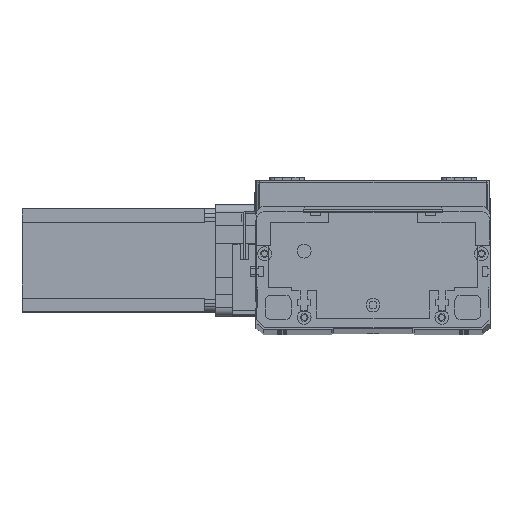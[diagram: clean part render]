
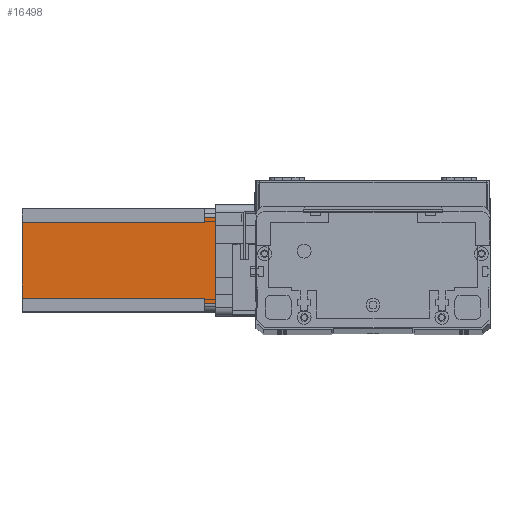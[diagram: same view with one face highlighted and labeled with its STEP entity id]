
A CAD part, top view. The second image highlights one B-rep face of the part: STEP entity #16498.
In plain terms, the highlighted planar face has unit normal (0, 0, 1) as drawn and (0, -1, 0) by its records, which use the part's own axes.
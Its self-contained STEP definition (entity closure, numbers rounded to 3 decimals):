
#160 = EDGE_CURVE ( 'NONE', #25111, #3438, #21063, .T. ) ;
#564 = DIRECTION ( 'NONE',  ( 0., 0., -1. ) ) ;
#868 = CARTESIAN_POINT ( 'NONE',  ( 52., 0., -112.5 ) ) ;
#956 = EDGE_CURVE ( 'NONE', #6160, #3438, #18769, .T. ) ;
#2570 = VECTOR ( 'NONE', #4375, 1000. ) ;
#2986 = CARTESIAN_POINT ( 'NONE',  ( 55., 0., -112.5 ) ) ;
#3009 = DIRECTION ( 'NONE',  ( 0., 0., 1. ) ) ;
#3339 = CARTESIAN_POINT ( 'NONE',  ( 52., 0., -6.5 ) ) ;
#3390 = VERTEX_POINT ( 'NONE', #17303 ) ;
#3438 = VERTEX_POINT ( 'NONE', #868 ) ;
#3483 = CARTESIAN_POINT ( 'NONE',  ( 8., 0., -112.5 ) ) ;
#3861 = EDGE_LOOP ( 'NONE', ( #17306, #15320, #17960, #13517, #24875, #7125, #23227, #8917 ) ) ;
#4029 = CARTESIAN_POINT ( 'NONE',  ( 55., 0., 0. ) ) ;
#4259 = EDGE_CURVE ( 'NONE', #3390, #14443, #6135, .T. ) ;
#4375 = DIRECTION ( 'NONE',  ( 1., 0., 0. ) ) ;
#4439 = CARTESIAN_POINT ( 'NONE',  ( 0., 0., 0. ) ) ;
#5244 = AXIS2_PLACEMENT_3D ( 'NONE', #12861, #12946, #564 ) ;
#5762 = CARTESIAN_POINT ( 'NONE',  ( 52., 0., -6.5 ) ) ;
#6135 = LINE ( 'NONE', #4439, #2570 ) ;
#6160 = VERTEX_POINT ( 'NONE', #17928 ) ;
#6893 = CARTESIAN_POINT ( 'NONE',  ( 0., 0., -112.5 ) ) ;
#7125 = ORIENTED_EDGE ( 'NONE', *, *, #8584, .F. ) ;
#7428 = VERTEX_POINT ( 'NONE', #21756 ) ;
#7511 = VERTEX_POINT ( 'NONE', #20819 ) ;
#7587 = DIRECTION ( 'NONE',  ( 0., 0., -1. ) ) ;
#8301 = CARTESIAN_POINT ( 'NONE',  ( 5., 0., -6.5 ) ) ;
#8584 = EDGE_CURVE ( 'NONE', #6160, #7511, #9312, .T. ) ;
#8917 = ORIENTED_EDGE ( 'NONE', *, *, #160, .F. ) ;
#9312 = LINE ( 'NONE', #3483, #24884 ) ;
#9811 = VECTOR ( 'NONE', #12535, 1000. ) ;
#10461 = LINE ( 'NONE', #14567, #9811 ) ;
#10806 = LINE ( 'NONE', #19921, #16892 ) ;
#12164 = FACE_OUTER_BOUND ( 'NONE', #3861, .T. ) ;
#12535 = DIRECTION ( 'NONE',  ( -1., 0., 0. ) ) ;
#12771 = PLANE ( 'NONE',  #5244 ) ;
#12861 = CARTESIAN_POINT ( 'NONE',  ( 0., 0., -112.5 ) ) ;
#12946 = DIRECTION ( 'NONE',  ( 0., -1., 0. ) ) ;
#13517 = ORIENTED_EDGE ( 'NONE', *, *, #25970, .T. ) ;
#14443 = VERTEX_POINT ( 'NONE', #4029 ) ;
#14567 = CARTESIAN_POINT ( 'NONE',  ( 8., 0., -6.5 ) ) ;
#15286 = VECTOR ( 'NONE', #25430, 1000. ) ;
#15320 = ORIENTED_EDGE ( 'NONE', *, *, #25004, .T. ) ;
#15587 = VECTOR ( 'NONE', #16809, 1000. ) ;
#16498 = ADVANCED_FACE ( 'NONE', ( #12164 ), #12771, .T. ) ;
#16789 = DIRECTION ( 'NONE',  ( 1., 0., 0. ) ) ;
#16809 = DIRECTION ( 'NONE',  ( 0., 0., -1. ) ) ;
#16892 = VECTOR ( 'NONE', #7587, 1000. ) ;
#17303 = CARTESIAN_POINT ( 'NONE',  ( 5., 0., 0. ) ) ;
#17306 = ORIENTED_EDGE ( 'NONE', *, *, #23819, .T. ) ;
#17928 = CARTESIAN_POINT ( 'NONE',  ( 8., 0., -112.5 ) ) ;
#17960 = ORIENTED_EDGE ( 'NONE', *, *, #4259, .F. ) ;
#18769 = LINE ( 'NONE', #6893, #25351 ) ;
#19921 = CARTESIAN_POINT ( 'NONE',  ( 5., 0., -112.5 ) ) ;
#20783 = LINE ( 'NONE', #2986, #15286 ) ;
#20819 = CARTESIAN_POINT ( 'NONE',  ( 8., 0., -6.5 ) ) ;
#21063 = LINE ( 'NONE', #21531, #15587 ) ;
#21531 = CARTESIAN_POINT ( 'NONE',  ( 52., 0., -112.5 ) ) ;
#21756 = CARTESIAN_POINT ( 'NONE',  ( 55., 0., -6.5 ) ) ;
#23227 = ORIENTED_EDGE ( 'NONE', *, *, #956, .T. ) ;
#23819 = EDGE_CURVE ( 'NONE', #25111, #7428, #24213, .T. ) ;
#24213 = LINE ( 'NONE', #5762, #24821 ) ;
#24821 = VECTOR ( 'NONE', #26070, 1000. ) ;
#24875 = ORIENTED_EDGE ( 'NONE', *, *, #26302, .F. ) ;
#24884 = VECTOR ( 'NONE', #3009, 1000. ) ;
#25004 = EDGE_CURVE ( 'NONE', #7428, #14443, #20783, .T. ) ;
#25111 = VERTEX_POINT ( 'NONE', #3339 ) ;
#25351 = VECTOR ( 'NONE', #16789, 1000. ) ;
#25430 = DIRECTION ( 'NONE',  ( 0., 0., 1. ) ) ;
#25970 = EDGE_CURVE ( 'NONE', #3390, #26276, #10806, .T. ) ;
#26070 = DIRECTION ( 'NONE',  ( 1., 0., 0. ) ) ;
#26276 = VERTEX_POINT ( 'NONE', #8301 ) ;
#26302 = EDGE_CURVE ( 'NONE', #7511, #26276, #10461, .T. ) ;
